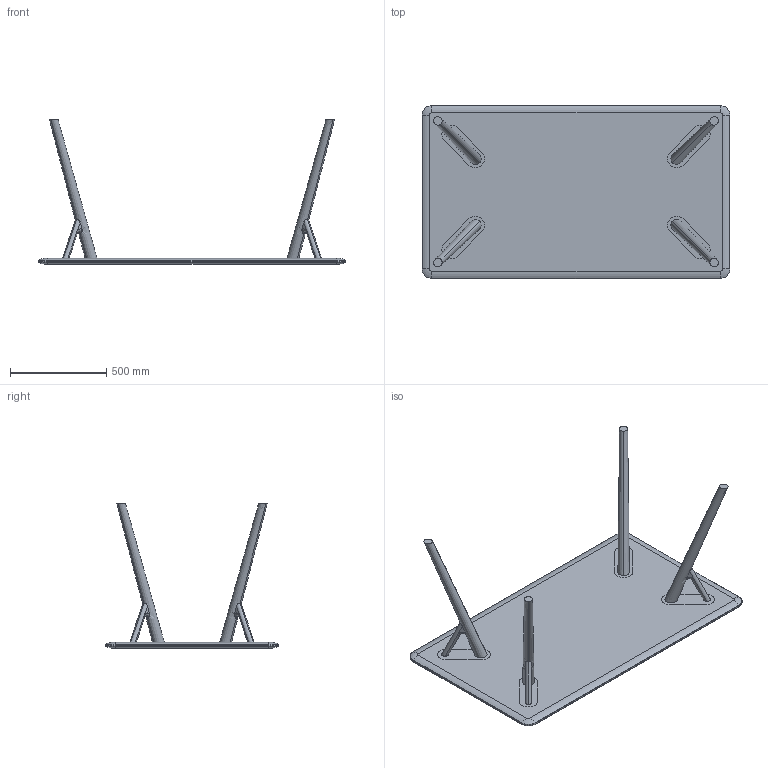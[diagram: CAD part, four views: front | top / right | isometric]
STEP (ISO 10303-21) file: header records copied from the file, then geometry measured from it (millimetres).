
FILE_DESCRIPTION (( 'STEP AP203' ), '1' );
FILE_NAME ('ORGANIC DINING TABLE.STEP', '2020-07-09T12:13:54', ( '' ), ( '' ), 'SwSTEP 2.0', 'SolidWorks 2020', '' );
FILE_SCHEMA (( 'CONFIG_CONTROL_DESIGN' ));
Length unit declared in the file: millimetre
Products named in the file (1): ORGANIC DINING TABLE
Bounding box: 1600 x 900 x 750 mm (x, y, z)
Volume: 49072874.3 mm3; surface area: 3503882.4 mm2
Topology: 1 solids, 1 shells, 102 faces, 256 edges, 160 vertices
Faces by surface type: cylinder 48, torus 24, plane 22, cone 8
Entity records: 3709 total; most frequent: CARTESIAN_POINT 1315, ORIENTED_EDGE 512, DIRECTION 458, EDGE_CURVE 256, AXIS2_PLACEMENT_3D 187, VERTEX_POINT 160, EDGE_LOOP 114, ADVANCED_FACE 102
